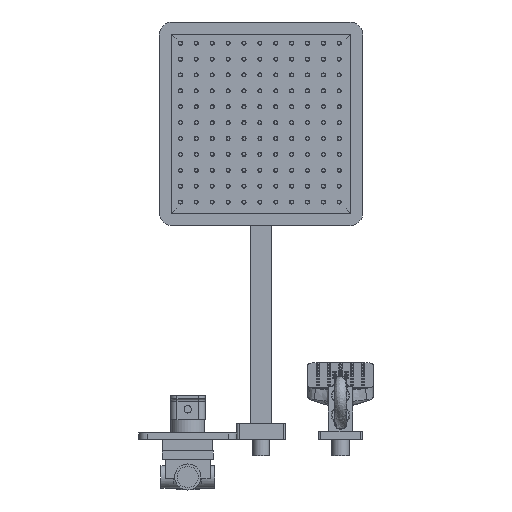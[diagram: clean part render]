
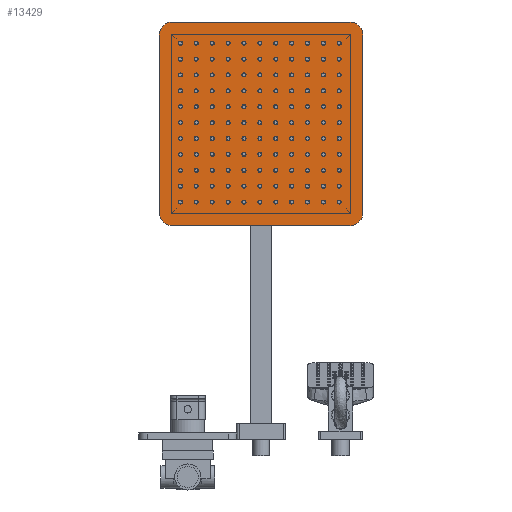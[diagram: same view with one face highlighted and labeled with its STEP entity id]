
A CAD part, front view. The second image highlights one B-rep face of the part: STEP entity #13429.
In plain terms, the highlighted planar face has unit normal (0, -1, 0).
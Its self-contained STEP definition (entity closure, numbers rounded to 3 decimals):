
#1376=PLANE('',#15206);
#2266=FACE_OUTER_BOUND('',#3467,.T.);
#3467=EDGE_LOOP('',(#10356,#10357,#10358,#10359,#10360,#10361,#10362,#10363));
#4663=LINE('',#23952,#5627);
#4669=LINE('',#23967,#5633);
#4671=LINE('',#23973,#5635);
#4684=LINE('',#24019,#5648);
#5627=VECTOR('',#17375,10.);
#5633=VECTOR('',#17391,10.);
#5635=VECTOR('',#17399,10.);
#5648=VECTOR('',#17454,10.);
#6545=CIRCLE('',#15169,16.);
#6550=CIRCLE('',#15177,16.);
#6551=CIRCLE('',#15179,16.);
#6552=CIRCLE('',#15182,16.);
#7260=VERTEX_POINT('',#23920);
#7261=VERTEX_POINT('',#23921);
#7274=VERTEX_POINT('',#23951);
#7275=VERTEX_POINT('',#23955);
#7276=VERTEX_POINT('',#23959);
#7277=VERTEX_POINT('',#23960);
#7278=VERTEX_POINT('',#23965);
#7279=VERTEX_POINT('',#23969);
#8428=EDGE_CURVE('',#7260,#7261,#6545,.T.);
#8443=EDGE_CURVE('',#7274,#7261,#4663,.T.);
#8445=EDGE_CURVE('',#7274,#7275,#6550,.T.);
#8447=EDGE_CURVE('',#7276,#7277,#6551,.T.);
#8451=EDGE_CURVE('',#7276,#7278,#4669,.T.);
#8452=EDGE_CURVE('',#7279,#7278,#6552,.T.);
#8454=EDGE_CURVE('',#7279,#7275,#4671,.T.);
#8475=EDGE_CURVE('',#7260,#7277,#4684,.T.);
#10356=ORIENTED_EDGE('',*,*,#8428,.F.);
#10357=ORIENTED_EDGE('',*,*,#8475,.T.);
#10358=ORIENTED_EDGE('',*,*,#8447,.F.);
#10359=ORIENTED_EDGE('',*,*,#8451,.T.);
#10360=ORIENTED_EDGE('',*,*,#8452,.F.);
#10361=ORIENTED_EDGE('',*,*,#8454,.T.);
#10362=ORIENTED_EDGE('',*,*,#8445,.F.);
#10363=ORIENTED_EDGE('',*,*,#8443,.T.);
#13429=ADVANCED_FACE('',(#2266),#1376,.T.);
#15169=AXIS2_PLACEMENT_3D('',#23922,#17351,#17352);
#15177=AXIS2_PLACEMENT_3D('',#23956,#17379,#17380);
#15179=AXIS2_PLACEMENT_3D('',#23961,#17384,#17385);
#15182=AXIS2_PLACEMENT_3D('',#23970,#17394,#17395);
#15206=AXIS2_PLACEMENT_3D('',#24021,#17457,#17458);
#17351=DIRECTION('center_axis',(0.,1.,0.));
#17352=DIRECTION('ref_axis',(-0.707,0.,0.707));
#17375=DIRECTION('',(-1.,0.,0.));
#17379=DIRECTION('center_axis',(0.,1.,0.));
#17380=DIRECTION('ref_axis',(0.707,0.,0.707));
#17384=DIRECTION('center_axis',(0.,1.,0.));
#17385=DIRECTION('ref_axis',(-0.707,0.,-0.707));
#17391=DIRECTION('',(1.,0.,0.));
#17394=DIRECTION('center_axis',(0.,1.,0.));
#17395=DIRECTION('ref_axis',(0.707,0.,-0.707));
#17399=DIRECTION('',(0.,0.,1.));
#17454=DIRECTION('',(0.,0.,-1.));
#17457=DIRECTION('center_axis',(0.,-1.,0.));
#17458=DIRECTION('ref_axis',(0.,0.,-1.));
#23920=CARTESIAN_POINT('',(-125.,-5.,109.));
#23921=CARTESIAN_POINT('',(-109.,-5.,125.));
#23922=CARTESIAN_POINT('Origin',(-109.,-5.,109.));
#23951=CARTESIAN_POINT('',(109.,-5.,125.));
#23952=CARTESIAN_POINT('',(-125.,-5.,125.));
#23955=CARTESIAN_POINT('',(125.,-5.,109.));
#23956=CARTESIAN_POINT('Origin',(109.,-5.,109.));
#23959=CARTESIAN_POINT('',(-109.,-5.,-125.));
#23960=CARTESIAN_POINT('',(-125.,-5.,-109.));
#23961=CARTESIAN_POINT('Origin',(-109.,-5.,-109.));
#23965=CARTESIAN_POINT('',(109.,-5.,-125.));
#23967=CARTESIAN_POINT('',(125.,-5.,-125.));
#23969=CARTESIAN_POINT('',(125.,-5.,-109.));
#23970=CARTESIAN_POINT('Origin',(109.,-5.,-109.));
#23973=CARTESIAN_POINT('',(125.,-5.,125.));
#24019=CARTESIAN_POINT('',(-125.,-5.,-125.));
#24021=CARTESIAN_POINT('Origin',(0.,-5.,0.));
